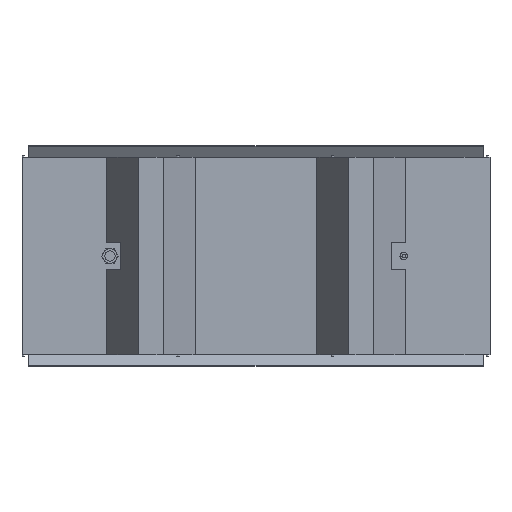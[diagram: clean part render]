
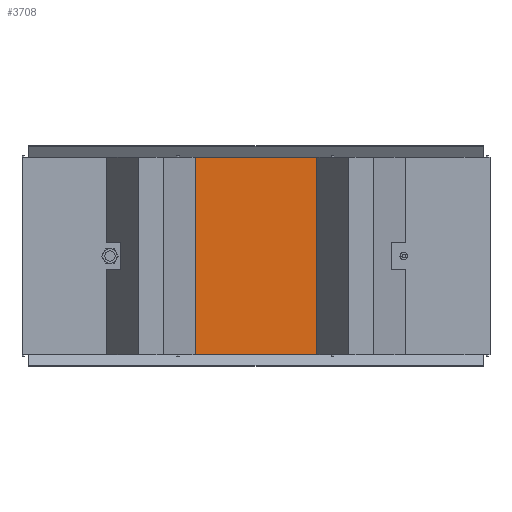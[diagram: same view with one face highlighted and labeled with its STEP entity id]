
A CAD part, front view. The second image highlights one B-rep face of the part: STEP entity #3708.
In plain terms, the highlighted planar face has unit normal (0, -1, 0).
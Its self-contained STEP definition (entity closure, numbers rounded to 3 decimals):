
#338=PLANE('',#4075);
#534=FACE_OUTER_BOUND('',#774,.T.);
#774=EDGE_LOOP('',(#3380,#3381,#3382,#3383));
#822=LINE('',#5240,#1171);
#859=LINE('',#5382,#1208);
#1132=LINE('',#6142,#1481);
#1133=LINE('',#6143,#1482);
#1171=VECTOR('',#4198,10.);
#1208=VECTOR('',#4345,10.);
#1481=VECTOR('',#5088,10.);
#1482=VECTOR('',#5089,10.);
#1682=VERTEX_POINT('',#5237);
#1683=VERTEX_POINT('',#5239);
#1732=VERTEX_POINT('',#5379);
#1733=VERTEX_POINT('',#5381);
#2032=EDGE_CURVE('',#1682,#1683,#822,.T.);
#2098=EDGE_CURVE('',#1732,#1733,#859,.T.);
#2471=EDGE_CURVE('',#1683,#1732,#1132,.T.);
#2472=EDGE_CURVE('',#1682,#1733,#1133,.T.);
#3380=ORIENTED_EDGE('',*,*,#2471,.F.);
#3381=ORIENTED_EDGE('',*,*,#2032,.F.);
#3382=ORIENTED_EDGE('',*,*,#2472,.T.);
#3383=ORIENTED_EDGE('',*,*,#2098,.F.);
#3708=ADVANCED_FACE('',(#534),#338,.T.);
#4075=AXIS2_PLACEMENT_3D('',#6141,#5086,#5087);
#4198=DIRECTION('',(-1.,0.,0.));
#4345=DIRECTION('',(1.,0.,0.));
#5086=DIRECTION('center_axis',(0.,-1.,0.));
#5087=DIRECTION('ref_axis',(1.,0.,0.));
#5088=DIRECTION('',(0.,0.,1.));
#5089=DIRECTION('',(0.,0.,1.));
#5237=CARTESIAN_POINT('',(223.193,-536.75,-361.5));
#5239=CARTESIAN_POINT('',(-223.193,-536.75,-361.5));
#5240=CARTESIAN_POINT('',(-857.,-536.75,-361.5));
#5379=CARTESIAN_POINT('',(-223.193,-536.75,361.5));
#5381=CARTESIAN_POINT('',(223.193,-536.75,361.5));
#5382=CARTESIAN_POINT('',(-857.,-536.75,361.5));
#6141=CARTESIAN_POINT('Origin',(-857.,-536.75,0.));
#6142=CARTESIAN_POINT('',(-223.193,-536.75,0.));
#6143=CARTESIAN_POINT('',(223.193,-536.75,0.));
